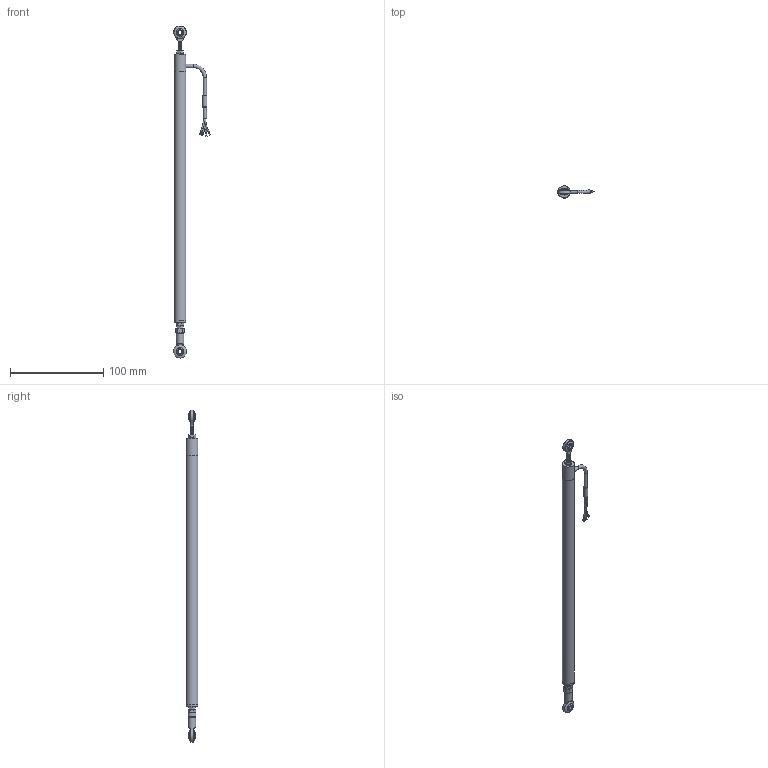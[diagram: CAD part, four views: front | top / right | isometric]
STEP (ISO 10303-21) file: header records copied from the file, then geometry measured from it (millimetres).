
FILE_DESCRIPTION(/* description */ (''),/* implementation_level */ '2;1');
FILE_NAME(/* name */ 'LPPS-12-225-R Assembly (wrapped).step',/* time_stamp */ '2023-10-10T14:08:14-04:00',/* author */ ('TSC_Grant'),/* organization */ (''),/* preprocessor_version */ 'ST-DEVELOPER v19.2',/* originating_system */ 'Autodesk Inventor 2024',/* authorisation */ '');
FILE_SCHEMA (('AUTOMOTIVE_DESIGN { 1 0 10303 214 3 1 1 }'));
Length unit declared in the file: inch
Products named in the file (4): LPPS-12-010-R Assembly (wrapped); LPPS-12-010-R Body (wrapped); LPPS-12-010-R Spoiler (wrapped); Wire
Assembly tree (3 placements, depth 2):
  LPPS-12-010-R Assembly (wrapped)
    LPPS-12-010-R Body (wrapped)
    LPPS-12-010-R Spoiler (wrapped)
    Wire
Bounding box: 39.48 x 12.7 x 355.7 mm (x, y, z)
Volume: 39292.1 mm3; surface area: 21981.5 mm2
Topology: 13 solids, 13 shells, 200 faces, 462 edges, 306 vertices
Faces by surface type: plane 94, cylinder 74, bspline 21, torus 7, sphere 4
Full cylindrical faces by diameter (mm): 1.016 x3, 1.27 x1, 1.524 x3, 1.651 x2, 3.632 x5, 3.937 x14, 4.14 x2, 4.191 x1, 4.445 x1, 6.604 x1, 8.001 x1, 12.7 x3
Entity records: 9553 total; most frequent: CARTESIAN_POINT 4684, ORIENTED_EDGE 924, DIRECTION 895, EDGE_CURVE 462, AXIS2_PLACEMENT_3D 345, VERTEX_POINT 306, EDGE_LOOP 228, LINE 205
